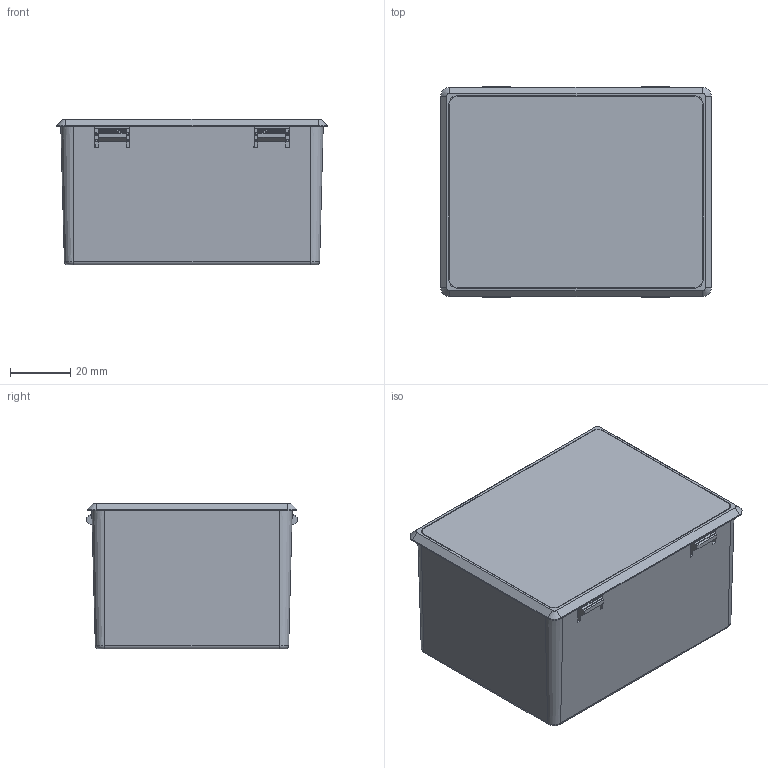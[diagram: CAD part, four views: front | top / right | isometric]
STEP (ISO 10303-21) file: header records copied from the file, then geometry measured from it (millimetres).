
FILE_DESCRIPTION((''),'2;1');
FILE_NAME('RTX200A_3D-DRAWING_ASM','2020-10-10T',('ASUS'),(''),'PRO/ENGINEER BY PARAMETRIC TECHNOLOGY CORPORATION, 2008380','PRO/ENGINEER BY PARAMETRIC TECHNOLOGY CORPORATION, 2008380','');
FILE_SCHEMA(('CONFIG_CONTROL_DESIGN'));
Length unit declared in the file: millimetre
Products named in the file (4): MANIFOLD_SOLID_BREP_38123; MANIFOLD_SOLID_BREP_41027; RTX200A_SW_V1-5_1_ASM; RTX200A_3D-DRAWING_ASM
Assembly tree (3 placements, depth 3):
  RTX200A_3D-DRAWING_ASM
    RTX200A_SW_V1-5_1_ASM
      MANIFOLD_SOLID_BREP_38123
      MANIFOLD_SOLID_BREP_41027
Bounding box: 90 x 69.92 x 48.4 mm (x, y, z)
Volume: 89216.8 mm3; surface area: 90397.8 mm2
Topology: 2 solids, 2 shells, 1038 faces, 2932 edges, 1925 vertices
Faces by surface type: plane 699, cylinder 139, cone 134, bspline 50, torus 8, extrusion 8
Entity records: 39497 total; most frequent: CARTESIAN_POINT 12962, ORIENTED_EDGE 5856, DIRECTION 4961, EDGE_CURVE 2928, VECTOR 2029, LINE 2021, VERTEX_POINT 1923, AXIS2_PLACEMENT_3D 1466
